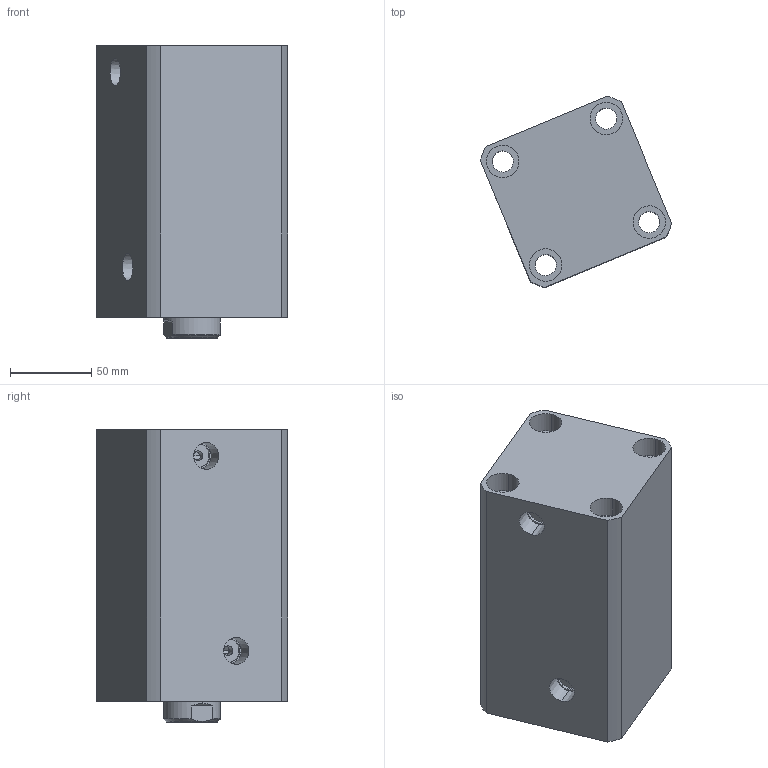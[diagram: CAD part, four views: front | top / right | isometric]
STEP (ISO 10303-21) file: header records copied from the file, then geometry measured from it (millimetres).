
FILE_DESCRIPTION (( 'STEP AP214' ), '1' );
FILE_NAME ('chtb-sd63x100n_asm.STEP', '2018-05-09T01:54:15', ( 'Windows' ), ( 'Microsoft' ), 'SwSTEP 2.0', 'SolidWorks 2015', '' );
FILE_SCHEMA (( 'AUTOMOTIVE_DESIGN' ));
Length unit declared in the file: millimetre
Products named in the file (4): CHTB63X100NHSG; CHTB63X100NBT; CHTB-63QG; chtb-sd63x100n_asm
Assembly tree (3 placements, depth 2):
  chtb-sd63x100n_asm
    CHTB-63QG
    CHTB63X100NBT
    CHTB63X100NHSG
Bounding box: 117.81 x 117.81 x 180 mm (x, y, z)
Volume: 1136789.3 mm3; surface area: 186120.8 mm2
Topology: 3 solids, 3 shells, 165 faces, 465 edges, 318 vertices
Faces by surface type: cylinder 101, plane 33, bspline 12, cone 12, torus 7
Entity records: 17638 total; most frequent: CARTESIAN_POINT 13505, ORIENTED_EDGE 918, DIRECTION 719, EDGE_CURVE 459, VERTEX_POINT 318, AXIS2_PLACEMENT_3D 291, EDGE_LOOP 197, ADVANCED_FACE 165
